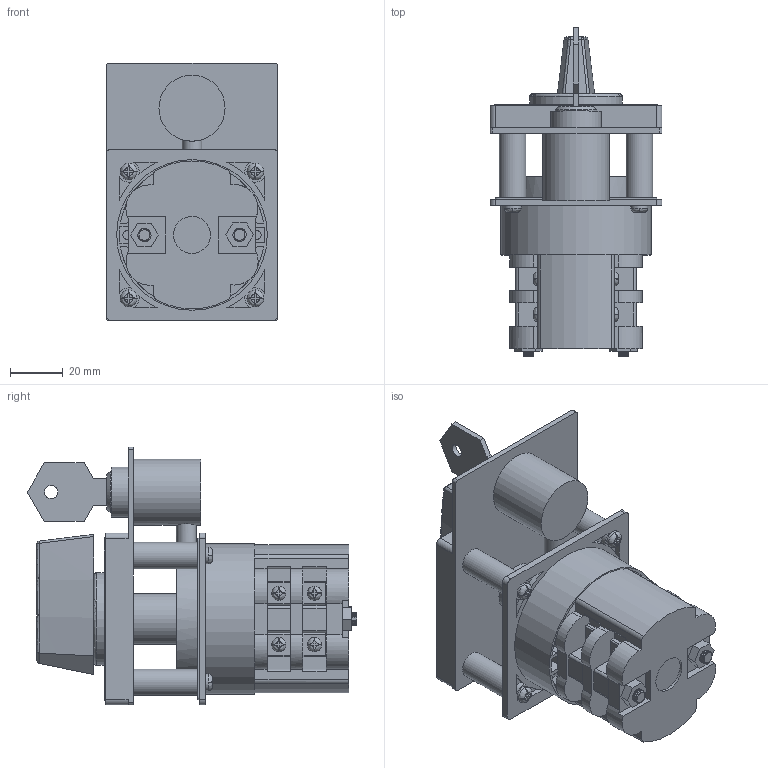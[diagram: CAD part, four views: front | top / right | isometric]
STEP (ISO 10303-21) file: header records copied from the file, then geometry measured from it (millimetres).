
FILE_DESCRIPTION(/* description */ (''),/* implementation_level */ '2;1');
FILE_NAME(/* name */ '4G16,25_S5_2_korpusy.stp',/* time_stamp */ '2021-07-21T11:32:14+02:00',/* author */ (''),/* organization */ (''),/* preprocessor_version */ 'ST-DEVELOPER v18.1',/* originating_system */ 'SIEMENS PLM Software NX 1965',/* authorisation */ '');
FILE_SCHEMA (('AUTOMOTIVE_DESIGN { 1 0 10303 214 3 1 1 1 }'));
Products named in the file (1): 4G16,25_S5_2_korpusy_stp
Bounding box: 65 x 124.6 x 97.5 mm (x, y, z)
Volume: 231317.6 mm3; surface area: 58377.6 mm2
Topology: 2 solids, 13 shells, 889 faces, 2453 edges, 1614 vertices
Faces by surface type: plane 497, cylinder 262, bspline 107, cone 20, sphere 2, torus 1
Full cylindrical faces by diameter (mm): 3.3 x2, 4 x4, 4.3 x4, 5 x3, 5.4 x9, 6.4 x4, 6.5 x2, 7.2 x4, 7.5 x1, 10 x5, 14 x1, 15.8 x1, 19 x2, 21.2 x1, 25 x1, 35 x1, 57 x1
Entity records: 83674 total; most frequent: CARTESIAN_POINT 62085, ORIENTED_EDGE 4674, DIRECTION 3972, EDGE_CURVE 2337, VERTEX_POINT 1566, AXIS2_PLACEMENT_3D 1429, LINE 1114, VECTOR 1114
